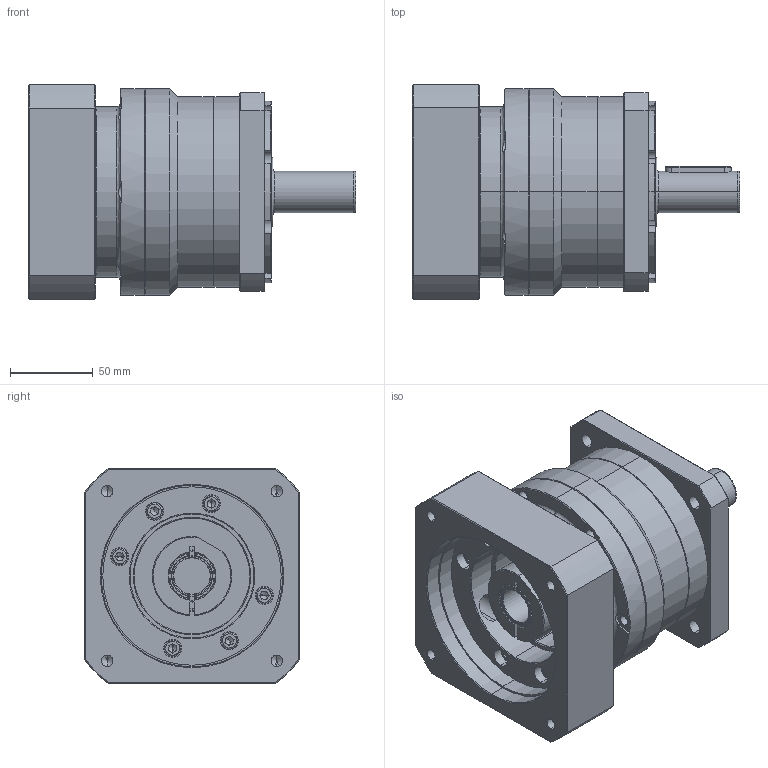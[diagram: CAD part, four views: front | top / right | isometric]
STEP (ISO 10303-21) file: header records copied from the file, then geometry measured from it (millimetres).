
FILE_DESCRIPTION (( 'STEP AP214' ), '1' );
FILE_NAME ('FB120-L1-S2-P2 22-110-145-M8.STEP', '2023-09-20T05:26:26', ( '微软用户' ), ( '微软中国' ), 'SwSTEP 2.0', 'SolidWorks 2018', '' );
FILE_SCHEMA (( 'AUTOMOTIVE_DESIGN' ));
Length unit declared in the file: millimetre
Products named in the file (9): hexagon socket head cap screws gb_GB_FASTENER_SCREWS_HSHCS M6X20-N; FB120一级齿圈加出轴25; 24-22曹噤杶; 標杶PAB90 D24; 输入太阳轮R-3-D24; 萇儂楊擘 PAB115 D110-M8-145F130H40.5; 笢潔楊擘 VRB115 俋倛芞; FB120-L1-S2-P2 22-110-145-M8; hex socket set screws with flat point gb_GB_FASTENER_SCREWS_HSFP M16X16-N
Assembly tree (13 placements, depth 2):
  FB120-L1-S2-P2 22-110-145-M8
    FB120一级齿圈加出轴25
    笢潔楊擘 VRB115 俋倛芞
    萇儂楊擘 PAB115 D110-M8-145F130H40.5
    输入太阳轮R-3-D24
    標杶PAB90 D24
    24-22曹噤杶
    hexagon socket head cap screws gb_GB_FASTENER_SCREWS_HSHCS M6X20-N  x6
    hex socket set screws with flat point gb_GB_FASTENER_SCREWS_HSFP M16X16-N
Bounding box: 198 x 130 x 130 mm (x, y, z)
Volume: 1562799.7 mm3; surface area: 200872.5 mm2
Topology: 13 solids, 13 shells, 741 faces, 1849 edges, 1143 vertices
Faces by surface type: cylinder 284, plane 256, cone 181, bspline 20
Entity records: 26264 total; most frequent: CARTESIAN_POINT 4025, DIRECTION 3368, ORIENTED_EDGE 3042, EDGE_CURVE 1521, AXIS2_PLACEMENT_3D 1357, VERTEX_POINT 978, CIRCLE 735, EDGE_LOOP 715
